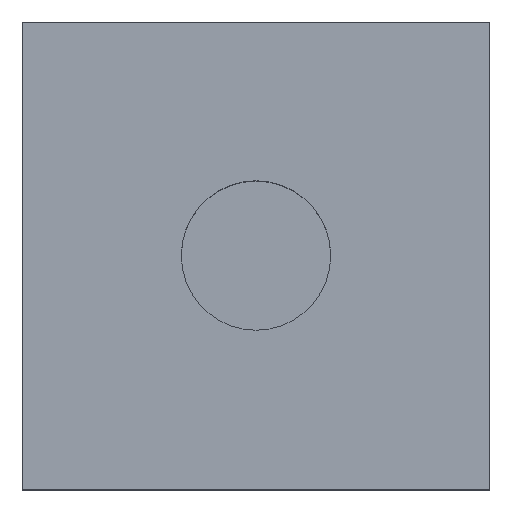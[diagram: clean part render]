
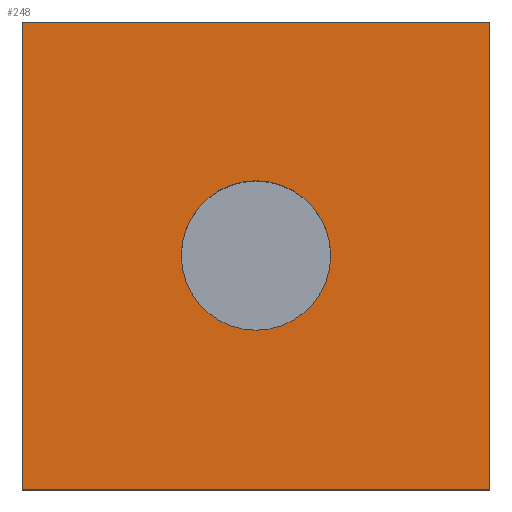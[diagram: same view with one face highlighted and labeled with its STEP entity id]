
A CAD part, top view. The second image highlights one B-rep face of the part: STEP entity #248.
In plain terms, the highlighted planar face has unit normal (0, 0, 1).
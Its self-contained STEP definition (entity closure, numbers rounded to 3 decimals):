
#24 = VERTEX_POINT('',#25);
#25 = CARTESIAN_POINT('',(-10.,-10.,24.));
#32 = PLANE('',#33);
#33 = AXIS2_PLACEMENT_3D('',#34,#35,#36);
#34 = CARTESIAN_POINT('',(-10.,-10.,0.));
#35 = DIRECTION('',(1.,0.,0.));
#36 = DIRECTION('',(0.,0.,1.));
#44 = PLANE('',#45);
#45 = AXIS2_PLACEMENT_3D('',#46,#47,#48);
#46 = CARTESIAN_POINT('',(-10.,-10.,0.));
#47 = DIRECTION('',(0.,1.,0.));
#48 = DIRECTION('',(0.,0.,1.));
#85 = VERTEX_POINT('',#86);
#86 = CARTESIAN_POINT('',(-10.,10.,24.));
#100 = PLANE('',#101);
#101 = AXIS2_PLACEMENT_3D('',#102,#103,#104);
#102 = CARTESIAN_POINT('',(-10.,10.,0.));
#103 = DIRECTION('',(0.,1.,0.));
#104 = DIRECTION('',(0.,0.,1.));
#112 = EDGE_CURVE('',#24,#85,#113,.T.);
#113 = SURFACE_CURVE('',#114,(#118,#125),.PCURVE_S1.);
#114 = LINE('',#115,#116);
#115 = CARTESIAN_POINT('',(-10.,-10.,24.));
#116 = VECTOR('',#117,1.);
#117 = DIRECTION('',(0.,1.,0.));
#118 = PCURVE('',#32,#119);
#119 = DEFINITIONAL_REPRESENTATION('',(#120),#124);
#120 = LINE('',#121,#122);
#121 = CARTESIAN_POINT('',(24.,0.));
#122 = VECTOR('',#123,1.);
#123 = DIRECTION('',(0.,-1.));
#124 = ( GEOMETRIC_REPRESENTATION_CONTEXT(2) 
PARAMETRIC_REPRESENTATION_CONTEXT() REPRESENTATION_CONTEXT('2D SPACE',''
  ) );
#125 = PCURVE('',#126,#131);
#126 = PLANE('',#127);
#127 = AXIS2_PLACEMENT_3D('',#128,#129,#130);
#128 = CARTESIAN_POINT('',(-10.,-10.,24.));
#129 = DIRECTION('',(0.,0.,1.));
#130 = DIRECTION('',(1.,0.,0.));
#131 = DEFINITIONAL_REPRESENTATION('',(#132),#136);
#132 = LINE('',#133,#134);
#133 = CARTESIAN_POINT('',(0.,0.));
#134 = VECTOR('',#135,1.);
#135 = DIRECTION('',(0.,1.));
#136 = ( GEOMETRIC_REPRESENTATION_CONTEXT(2) 
PARAMETRIC_REPRESENTATION_CONTEXT() REPRESENTATION_CONTEXT('2D SPACE',''
  ) );
#200 = EDGE_CURVE('',#24,#201,#203,.T.);
#201 = VERTEX_POINT('',#202);
#202 = CARTESIAN_POINT('',(10.,-10.,24.));
#203 = SURFACE_CURVE('',#204,(#208,#215),.PCURVE_S1.);
#204 = LINE('',#205,#206);
#205 = CARTESIAN_POINT('',(-10.,-10.,24.));
#206 = VECTOR('',#207,1.);
#207 = DIRECTION('',(1.,0.,0.));
#208 = PCURVE('',#44,#209);
#209 = DEFINITIONAL_REPRESENTATION('',(#210),#214);
#210 = LINE('',#211,#212);
#211 = CARTESIAN_POINT('',(24.,0.));
#212 = VECTOR('',#213,1.);
#213 = DIRECTION('',(0.,1.));
#214 = ( GEOMETRIC_REPRESENTATION_CONTEXT(2) 
PARAMETRIC_REPRESENTATION_CONTEXT() REPRESENTATION_CONTEXT('2D SPACE',''
  ) );
#215 = PCURVE('',#126,#216);
#216 = DEFINITIONAL_REPRESENTATION('',(#217),#221);
#217 = LINE('',#218,#219);
#218 = CARTESIAN_POINT('',(0.,0.));
#219 = VECTOR('',#220,1.);
#220 = DIRECTION('',(1.,0.));
#221 = ( GEOMETRIC_REPRESENTATION_CONTEXT(2) 
PARAMETRIC_REPRESENTATION_CONTEXT() REPRESENTATION_CONTEXT('2D SPACE',''
  ) );
#237 = PLANE('',#238);
#238 = AXIS2_PLACEMENT_3D('',#239,#240,#241);
#239 = CARTESIAN_POINT('',(10.,-10.,0.));
#240 = DIRECTION('',(1.,0.,0.));
#241 = DIRECTION('',(0.,0.,1.));
#248 = ADVANCED_FACE('',(#249,#297),#126,.T.);
#249 = FACE_BOUND('',#250,.T.);
#250 = EDGE_LOOP('',(#251,#252,#253,#276));
#251 = ORIENTED_EDGE('',*,*,#112,.F.);
#252 = ORIENTED_EDGE('',*,*,#200,.T.);
#253 = ORIENTED_EDGE('',*,*,#254,.T.);
#254 = EDGE_CURVE('',#201,#255,#257,.T.);
#255 = VERTEX_POINT('',#256);
#256 = CARTESIAN_POINT('',(10.,10.,24.));
#257 = SURFACE_CURVE('',#258,(#262,#269),.PCURVE_S1.);
#258 = LINE('',#259,#260);
#259 = CARTESIAN_POINT('',(10.,-10.,24.));
#260 = VECTOR('',#261,1.);
#261 = DIRECTION('',(0.,1.,0.));
#262 = PCURVE('',#126,#263);
#263 = DEFINITIONAL_REPRESENTATION('',(#264),#268);
#264 = LINE('',#265,#266);
#265 = CARTESIAN_POINT('',(20.,0.));
#266 = VECTOR('',#267,1.);
#267 = DIRECTION('',(0.,1.));
#268 = ( GEOMETRIC_REPRESENTATION_CONTEXT(2) 
PARAMETRIC_REPRESENTATION_CONTEXT() REPRESENTATION_CONTEXT('2D SPACE',''
  ) );
#269 = PCURVE('',#237,#270);
#270 = DEFINITIONAL_REPRESENTATION('',(#271),#275);
#271 = LINE('',#272,#273);
#272 = CARTESIAN_POINT('',(24.,0.));
#273 = VECTOR('',#274,1.);
#274 = DIRECTION('',(0.,-1.));
#275 = ( GEOMETRIC_REPRESENTATION_CONTEXT(2) 
PARAMETRIC_REPRESENTATION_CONTEXT() REPRESENTATION_CONTEXT('2D SPACE',''
  ) );
#276 = ORIENTED_EDGE('',*,*,#277,.F.);
#277 = EDGE_CURVE('',#85,#255,#278,.T.);
#278 = SURFACE_CURVE('',#279,(#283,#290),.PCURVE_S1.);
#279 = LINE('',#280,#281);
#280 = CARTESIAN_POINT('',(-10.,10.,24.));
#281 = VECTOR('',#282,1.);
#282 = DIRECTION('',(1.,0.,0.));
#283 = PCURVE('',#126,#284);
#284 = DEFINITIONAL_REPRESENTATION('',(#285),#289);
#285 = LINE('',#286,#287);
#286 = CARTESIAN_POINT('',(0.,20.));
#287 = VECTOR('',#288,1.);
#288 = DIRECTION('',(1.,0.));
#289 = ( GEOMETRIC_REPRESENTATION_CONTEXT(2) 
PARAMETRIC_REPRESENTATION_CONTEXT() REPRESENTATION_CONTEXT('2D SPACE',''
  ) );
#290 = PCURVE('',#100,#291);
#291 = DEFINITIONAL_REPRESENTATION('',(#292),#296);
#292 = LINE('',#293,#294);
#293 = CARTESIAN_POINT('',(24.,0.));
#294 = VECTOR('',#295,1.);
#295 = DIRECTION('',(0.,1.));
#296 = ( GEOMETRIC_REPRESENTATION_CONTEXT(2) 
PARAMETRIC_REPRESENTATION_CONTEXT() REPRESENTATION_CONTEXT('2D SPACE',''
  ) );
#297 = FACE_BOUND('',#298,.T.);
#298 = EDGE_LOOP('',(#299));
#299 = ORIENTED_EDGE('',*,*,#300,.T.);
#300 = EDGE_CURVE('',#301,#301,#303,.T.);
#301 = VERTEX_POINT('',#302);
#302 = CARTESIAN_POINT('',(3.2,0.,24.));
#303 = SURFACE_CURVE('',#304,(#309,#320),.PCURVE_S1.);
#304 = CIRCLE('',#305,3.2);
#305 = AXIS2_PLACEMENT_3D('',#306,#307,#308);
#306 = CARTESIAN_POINT('',(0.,0.,24.));
#307 = DIRECTION('',(0.,0.,-1.));
#308 = DIRECTION('',(1.,0.,0.));
#309 = PCURVE('',#126,#310);
#310 = DEFINITIONAL_REPRESENTATION('',(#311),#319);
#311 = ( BOUNDED_CURVE() B_SPLINE_CURVE(2,(#312,#313,#314,#315,#316,#317
,#318),.UNSPECIFIED.,.T.,.F.) B_SPLINE_CURVE_WITH_KNOTS((1,2,2,2,2,1),(
    -2.094,0.,2.094,4.189,6.283,
8.378),.UNSPECIFIED.) CURVE() GEOMETRIC_REPRESENTATION_ITEM() 
RATIONAL_B_SPLINE_CURVE((1.,0.5,1.,0.5,1.,0.5,1.)) REPRESENTATION_ITEM(
  '') );
#312 = CARTESIAN_POINT('',(13.2,10.));
#313 = CARTESIAN_POINT('',(13.2,4.457));
#314 = CARTESIAN_POINT('',(8.4,7.229));
#315 = CARTESIAN_POINT('',(3.6,10.));
#316 = CARTESIAN_POINT('',(8.4,12.771));
#317 = CARTESIAN_POINT('',(13.2,15.543));
#318 = CARTESIAN_POINT('',(13.2,10.));
#319 = ( GEOMETRIC_REPRESENTATION_CONTEXT(2) 
PARAMETRIC_REPRESENTATION_CONTEXT() REPRESENTATION_CONTEXT('2D SPACE',''
  ) );
#320 = PCURVE('',#321,#326);
#321 = CYLINDRICAL_SURFACE('',#322,3.2);
#322 = AXIS2_PLACEMENT_3D('',#323,#324,#325);
#323 = CARTESIAN_POINT('',(0.,0.,17.));
#324 = DIRECTION('',(-0.,-0.,-1.));
#325 = DIRECTION('',(1.,0.,0.));
#326 = DEFINITIONAL_REPRESENTATION('',(#327),#331);
#327 = LINE('',#328,#329);
#328 = CARTESIAN_POINT('',(-6.283,-7.));
#329 = VECTOR('',#330,1.);
#330 = DIRECTION('',(1.,-0.));
#331 = ( GEOMETRIC_REPRESENTATION_CONTEXT(2) 
PARAMETRIC_REPRESENTATION_CONTEXT() REPRESENTATION_CONTEXT('2D SPACE',''
  ) );
